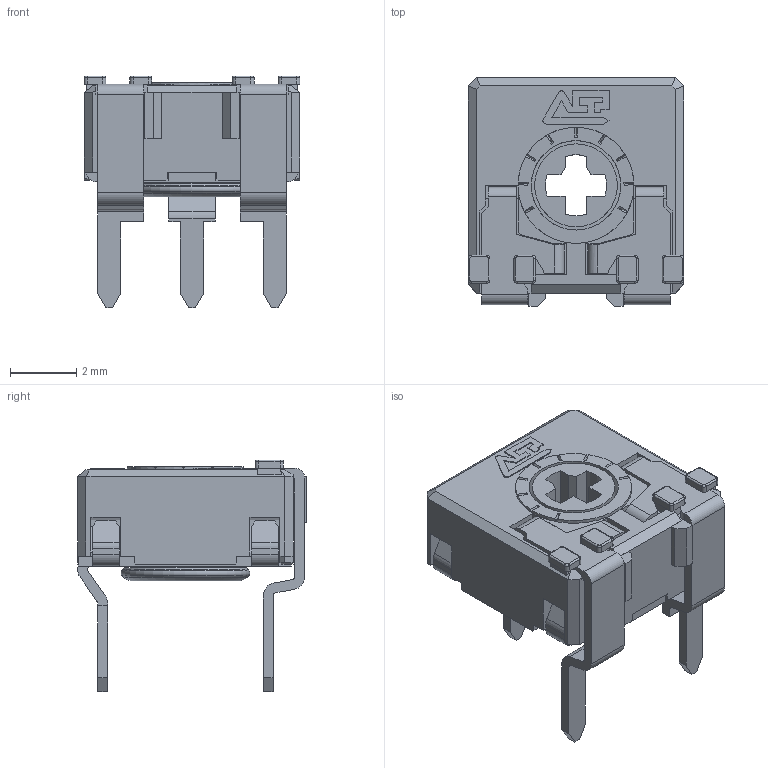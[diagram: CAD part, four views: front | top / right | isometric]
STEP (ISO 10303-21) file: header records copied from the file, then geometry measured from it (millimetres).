
FILE_DESCRIPTION(/* description */ (''),/* implementation_level */ '2;1');
FILE_NAME(/* name */ '\\SERVERACP\intercambio\Ignacio Santa Cecilia\Nueva WEB 2025\CA6\CA6XVS5.stp',/* time_stamp */ '2025-06-05T10:09:19+02:00',/* author */ ('CEM'),/* organization */ (''),/* preprocessor_version */ 'ST-DEVELOPER v17',/* originating_system */ 'Autodesk Inventor 2018',/* authorisation */ '');
FILE_SCHEMA (('AUTOMOTIVE_DESIGN { 1 0 10303 214 3 1 1 }'));
Length unit declared in the file: millimetre
Products named in the file (1): CARCASA CA6
Bounding box: 6.5 x 6.9 x 7 mm (x, y, z)
Volume: 91.7 mm3; surface area: 399.1 mm2
Topology: 1 solids, 1 shells, 544 faces, 1537 edges, 989 vertices
Faces by surface type: plane 411, cylinder 94, cone 17, bspline 16, torus 6
Full cylindrical faces by diameter (mm): 2.5 x1, 2.7 x1, 2.9 x1, 3.1 x1, 3.5 x1
Entity records: 17704 total; most frequent: CARTESIAN_POINT 3255, ORIENTED_EDGE 3074, DIRECTION 2865, EDGE_CURVE 1537, LINE 1211, VECTOR 1211, VERTEX_POINT 989, AXIS2_PLACEMENT_3D 827
